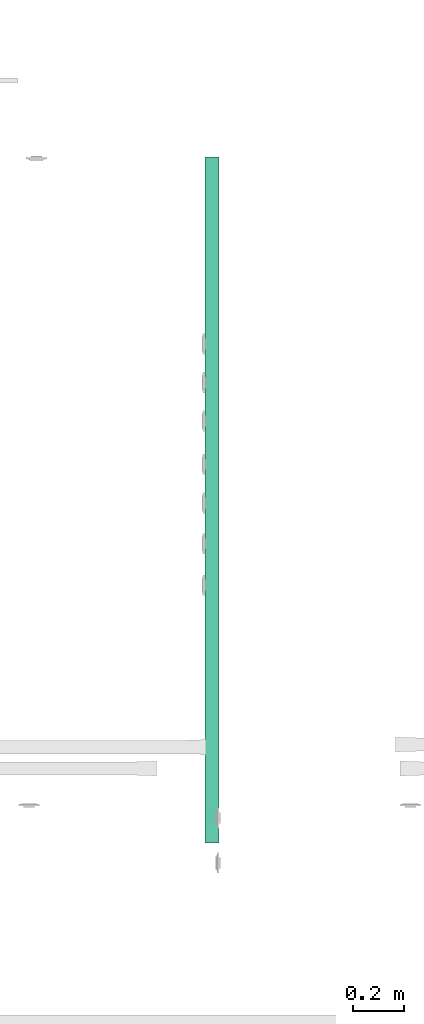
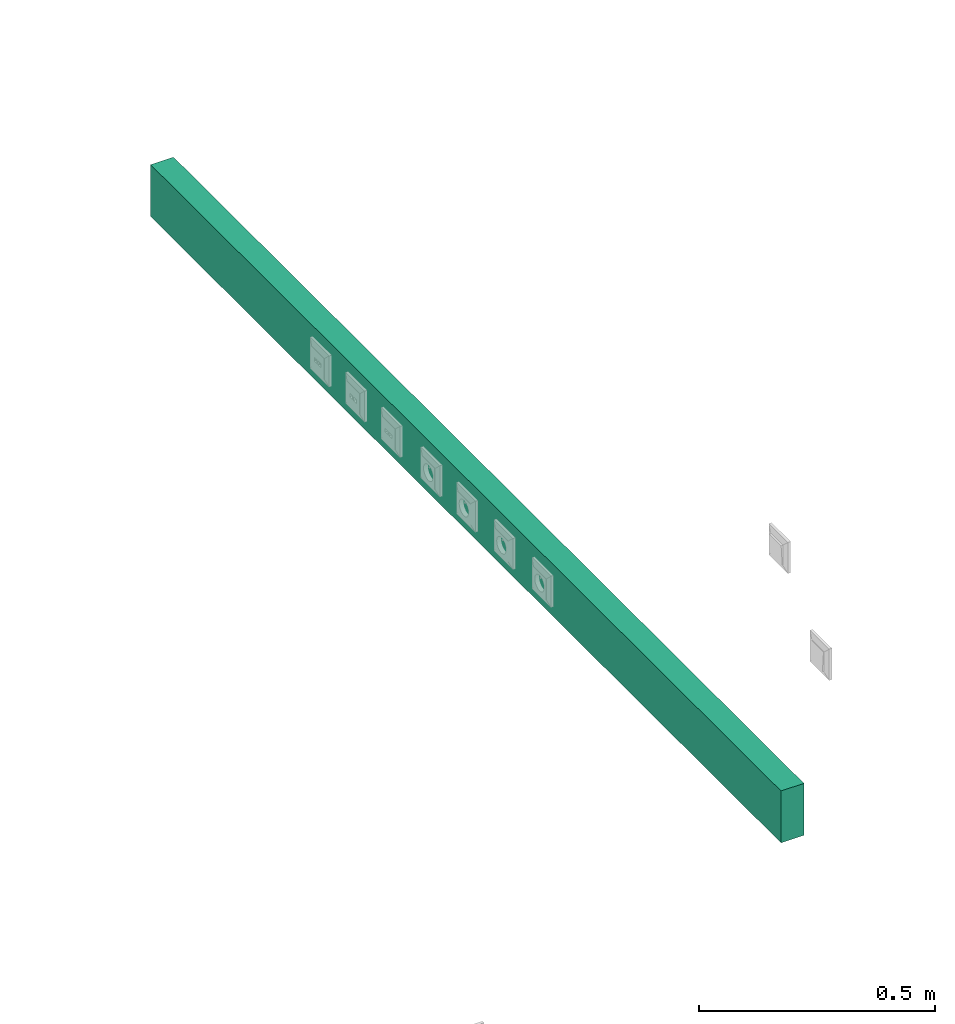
# One storey, part 18 of 153: 1 flow segment.
"""IFC2X3 building model written with IfcOpenShell, lengths in metres."""

from ifc_helpers import new_model, entity, si_unit, converted_unit, derived_unit, direction, frame, frame_2d, origin, place, context, subcontext, project, spatial, rectangle, extrude, type_object, element, save


model = new_model("IFC2X3")

# Units and contexts
model_context = context("Model", 3, precision=1e-05, world=origin(), true_north=direction((6.12303176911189e-17, 1.0)))
body_context = subcontext(model_context, "Body", "Model", "MODEL_VIEW")
ifc_project = project(units=[si_unit("LENGTHUNIT", "METRE"), si_unit("AREAUNIT", "SQUARE_METRE"), si_unit("VOLUMEUNIT", "CUBIC_METRE"), converted_unit("PLANEANGLEUNIT", "DEGREE", entity("IfcRatioMeasure", 0.0174532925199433), si_unit("PLANEANGLEUNIT", "RADIAN"), dimensions=[0, 0, 0, 0, 0, 0, 0]), si_unit("MASSUNIT", "GRAM", prefix="KILO"), derived_unit("MASSDENSITYUNIT", [(si_unit("MASSUNIT", "GRAM", prefix="KILO"), 1), (si_unit("LENGTHUNIT", "METRE"), -3)]), si_unit("TIMEUNIT", "SECOND"), si_unit("FREQUENCYUNIT", "HERTZ"), si_unit("THERMODYNAMICTEMPERATUREUNIT", "DEGREE_CELSIUS"), derived_unit("THERMALTRANSMITTANCEUNIT", [(si_unit("MASSUNIT", "GRAM", prefix="KILO"), 1), (si_unit("THERMODYNAMICTEMPERATUREUNIT", "KELVIN"), -1), (si_unit("TIMEUNIT", "SECOND"), -3)]), derived_unit("VOLUMETRICFLOWRATEUNIT", [(si_unit("LENGTHUNIT", "METRE"), 3), (si_unit("TIMEUNIT", "SECOND"), -1)]), si_unit("ELECTRICCURRENTUNIT", "AMPERE"), si_unit("ELECTRICVOLTAGEUNIT", "VOLT"), si_unit("POWERUNIT", "WATT"), si_unit("FORCEUNIT", "NEWTON"), si_unit("ILLUMINANCEUNIT", "LUX"), si_unit("LUMINOUSFLUXUNIT", "LUMEN"), si_unit("LUMINOUSINTENSITYUNIT", "CANDELA"), derived_unit("USERDEFINED", [(si_unit("MASSUNIT", "GRAM", prefix="KILO"), -1), (si_unit("LENGTHUNIT", "METRE"), -2), (si_unit("TIMEUNIT", "SECOND"), 3), (si_unit("LUMINOUSFLUXUNIT", "LUMEN"), 1)]), derived_unit("LINEARVELOCITYUNIT", [(si_unit("LENGTHUNIT", "METRE"), 1), (si_unit("TIMEUNIT", "SECOND"), -1)]), si_unit("PRESSUREUNIT", "PASCAL"), derived_unit("USERDEFINED", [(si_unit("LENGTHUNIT", "METRE"), -2), (si_unit("MASSUNIT", "GRAM", prefix="KILO"), 1), (si_unit("TIMEUNIT", "SECOND"), -2)])], contexts=[model_context])

# Site, building, storey
site_placement = place(None, origin())
site = spatial("IfcSite", under=ifc_project, at=site_placement, Name="Default", CompositionType="ELEMENT")
building_placement = place(site_placement, origin())
building = spatial("IfcBuilding", under=site, at=building_placement, CompositionType="ELEMENT")
storey_placement = place(building_placement, frame((0.0, 0.0, -4.62)))
storey = spatial("IfcBuildingStorey", under=building, at=storey_placement, Name="S02", CompositionType="ELEMENT", Elevation=-4.62)

# Flow segment
cable_carrier_segment_type = type_object("IfcCableCarrierSegmentType", Name="Cable Tray with Fittings:Goulottes de câbles indéfini_Goulottes de câbles", PredefinedType="NOTDEFINED")
flow_segment_placement = place(storey_placement, origin())
element("IfcFlowSegment", 1, at=flow_segment_placement, inside=storey, type_object=cable_carrier_segment_type, Name="Cable Tray with Fittings:Goulottes de câbles indéfini_Goulottes de câbles", ObjectType="Cable Tray with Fittings:Goulottes de câbles indéfini_Goulottes de câbles", context=body_context, shape_type="SweptSolid", body=[
    extrude(rectangle(XDim=2.667, YDim=0.0560000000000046, at=frame_2d((0.0, 8.66320903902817e-15), x_axis=(1.0, 0.0))), frame((53.3617436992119, -186.547988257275, 0.365999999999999), z_axis=(0.0, 0.0, 1.0), x_axis=(0.0, -1.0, 0.0)), (0.0, 0.0, 1.0), 0.134),
])

save(model, "model.ifc")
